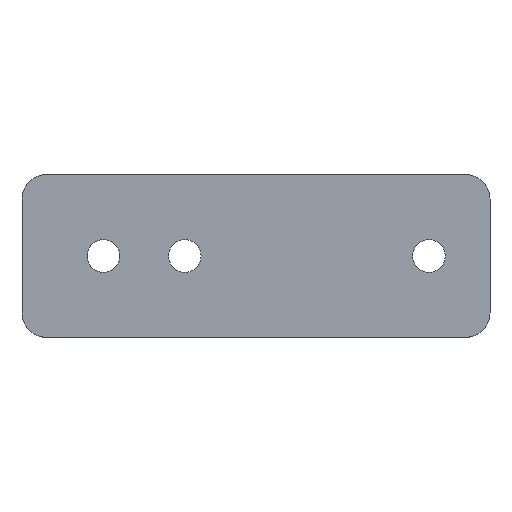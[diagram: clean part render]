
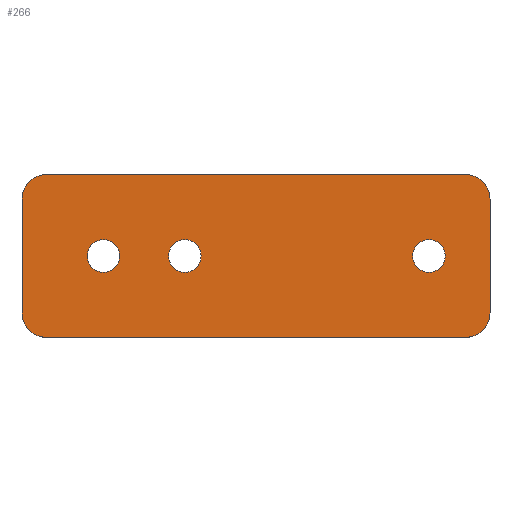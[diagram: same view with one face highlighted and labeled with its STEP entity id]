
A CAD part, top view. The second image highlights one B-rep face of the part: STEP entity #266.
In plain terms, the highlighted planar face has unit normal (0, 0, 1).
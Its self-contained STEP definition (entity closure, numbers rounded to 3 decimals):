
#18=FACE_BOUND('',#56,.T.);
#19=FACE_BOUND('',#57,.T.);
#20=FACE_BOUND('',#58,.T.);
#26=PLANE('',#316);
#39=FACE_OUTER_BOUND('',#55,.T.);
#55=EDGE_LOOP('',(#233,#234,#235,#236,#237,#238,#239,#240));
#56=EDGE_LOOP('',(#241,#242));
#57=EDGE_LOOP('',(#243,#244));
#58=EDGE_LOOP('',(#245,#246));
#63=LINE('',#413,#82);
#69=LINE('',#440,#88);
#76=LINE('',#469,#95);
#77=LINE('',#471,#96);
#82=VECTOR('',#331,10.);
#88=VECTOR('',#357,10.);
#95=VECTOR('',#392,10.);
#96=VECTOR('',#395,10.);
#97=CIRCLE('',#288,6.);
#105=CIRCLE('',#299,6.);
#106=CIRCLE('',#302,6.);
#107=CIRCLE('',#304,6.);
#108=CIRCLE('',#306,4.);
#109=CIRCLE('',#307,4.);
#110=CIRCLE('',#309,4.);
#111=CIRCLE('',#310,4.);
#112=CIRCLE('',#312,4.);
#113=CIRCLE('',#313,4.);
#114=VERTEX_POINT('',#400);
#115=VERTEX_POINT('',#401);
#119=VERTEX_POINT('',#411);
#128=VERTEX_POINT('',#433);
#129=VERTEX_POINT('',#434);
#130=VERTEX_POINT('',#439);
#131=VERTEX_POINT('',#443);
#132=VERTEX_POINT('',#447);
#133=VERTEX_POINT('',#451);
#134=VERTEX_POINT('',#452);
#135=VERTEX_POINT('',#457);
#136=VERTEX_POINT('',#458);
#137=VERTEX_POINT('',#463);
#138=VERTEX_POINT('',#464);
#139=EDGE_CURVE('',#114,#115,#97,.T.);
#145=EDGE_CURVE('',#119,#114,#63,.T.);
#155=EDGE_CURVE('',#128,#129,#105,.T.);
#158=EDGE_CURVE('',#129,#130,#69,.T.);
#160=EDGE_CURVE('',#130,#131,#106,.T.);
#162=EDGE_CURVE('',#132,#119,#107,.T.);
#164=EDGE_CURVE('',#133,#134,#108,.T.);
#165=EDGE_CURVE('',#134,#133,#109,.T.);
#167=EDGE_CURVE('',#135,#136,#110,.T.);
#168=EDGE_CURVE('',#136,#135,#111,.T.);
#170=EDGE_CURVE('',#137,#138,#112,.T.);
#171=EDGE_CURVE('',#138,#137,#113,.T.);
#173=EDGE_CURVE('',#115,#128,#76,.T.);
#174=EDGE_CURVE('',#131,#132,#77,.T.);
#233=ORIENTED_EDGE('',*,*,#139,.F.);
#234=ORIENTED_EDGE('',*,*,#145,.F.);
#235=ORIENTED_EDGE('',*,*,#162,.F.);
#236=ORIENTED_EDGE('',*,*,#174,.F.);
#237=ORIENTED_EDGE('',*,*,#160,.F.);
#238=ORIENTED_EDGE('',*,*,#158,.F.);
#239=ORIENTED_EDGE('',*,*,#155,.F.);
#240=ORIENTED_EDGE('',*,*,#173,.F.);
#241=ORIENTED_EDGE('',*,*,#164,.T.);
#242=ORIENTED_EDGE('',*,*,#165,.T.);
#243=ORIENTED_EDGE('',*,*,#167,.T.);
#244=ORIENTED_EDGE('',*,*,#168,.T.);
#245=ORIENTED_EDGE('',*,*,#170,.T.);
#246=ORIENTED_EDGE('',*,*,#171,.T.);
#266=ADVANCED_FACE('',(#39,#18,#19,#20),#26,.T.);
#288=AXIS2_PLACEMENT_3D('',#402,#321,#322);
#299=AXIS2_PLACEMENT_3D('',#435,#351,#352);
#302=AXIS2_PLACEMENT_3D('',#444,#361,#362);
#304=AXIS2_PLACEMENT_3D('',#448,#366,#367);
#306=AXIS2_PLACEMENT_3D('',#453,#371,#372);
#307=AXIS2_PLACEMENT_3D('',#454,#373,#374);
#309=AXIS2_PLACEMENT_3D('',#459,#378,#379);
#310=AXIS2_PLACEMENT_3D('',#460,#380,#381);
#312=AXIS2_PLACEMENT_3D('',#465,#385,#386);
#313=AXIS2_PLACEMENT_3D('',#466,#387,#388);
#316=AXIS2_PLACEMENT_3D('',#472,#396,#397);
#321=DIRECTION('center_axis',(0.,0.,-1.));
#322=DIRECTION('ref_axis',(0.707,0.707,0.));
#331=DIRECTION('',(1.,0.,0.));
#351=DIRECTION('center_axis',(0.,0.,-1.));
#352=DIRECTION('ref_axis',(0.707,-0.707,0.));
#357=DIRECTION('',(-1.,0.,0.));
#361=DIRECTION('center_axis',(0.,0.,-1.));
#362=DIRECTION('ref_axis',(-0.707,-0.707,0.));
#366=DIRECTION('center_axis',(0.,0.,-1.));
#367=DIRECTION('ref_axis',(-0.707,0.707,0.));
#371=DIRECTION('center_axis',(0.,0.,-1.));
#372=DIRECTION('ref_axis',(1.,0.,0.));
#373=DIRECTION('center_axis',(0.,0.,-1.));
#374=DIRECTION('ref_axis',(1.,0.,0.));
#378=DIRECTION('center_axis',(0.,0.,-1.));
#379=DIRECTION('ref_axis',(1.,0.,0.));
#380=DIRECTION('center_axis',(0.,0.,-1.));
#381=DIRECTION('ref_axis',(1.,0.,0.));
#385=DIRECTION('center_axis',(0.,0.,-1.));
#386=DIRECTION('ref_axis',(1.,0.,0.));
#387=DIRECTION('center_axis',(0.,0.,-1.));
#388=DIRECTION('ref_axis',(1.,0.,0.));
#392=DIRECTION('',(0.,-1.,0.));
#395=DIRECTION('',(0.,1.,0.));
#396=DIRECTION('center_axis',(0.,0.,1.));
#397=DIRECTION('ref_axis',(1.,0.,0.));
#400=CARTESIAN_POINT('',(109.,0.,6.));
#401=CARTESIAN_POINT('',(115.,-6.,6.));
#402=CARTESIAN_POINT('Origin',(109.,-6.,6.));
#411=CARTESIAN_POINT('',(6.,0.,6.));
#413=CARTESIAN_POINT('',(0.,0.,6.));
#433=CARTESIAN_POINT('',(115.,-34.,6.));
#434=CARTESIAN_POINT('',(109.,-40.,6.));
#435=CARTESIAN_POINT('Origin',(109.,-34.,6.));
#439=CARTESIAN_POINT('',(6.,-40.,6.));
#440=CARTESIAN_POINT('',(115.,-40.,6.));
#443=CARTESIAN_POINT('',(0.,-34.,6.));
#444=CARTESIAN_POINT('Origin',(6.,-34.,6.));
#447=CARTESIAN_POINT('',(0.,-6.,6.));
#448=CARTESIAN_POINT('Origin',(6.,-6.,6.));
#451=CARTESIAN_POINT('',(104.,-20.,6.));
#452=CARTESIAN_POINT('',(96.,-20.,6.));
#453=CARTESIAN_POINT('Origin',(100.,-20.,6.));
#454=CARTESIAN_POINT('Origin',(100.,-20.,6.));
#457=CARTESIAN_POINT('',(44.,-20.,6.));
#458=CARTESIAN_POINT('',(36.,-20.,6.));
#459=CARTESIAN_POINT('Origin',(40.,-20.,6.));
#460=CARTESIAN_POINT('Origin',(40.,-20.,6.));
#463=CARTESIAN_POINT('',(24.,-20.,6.));
#464=CARTESIAN_POINT('',(16.,-20.,6.));
#465=CARTESIAN_POINT('Origin',(20.,-20.,6.));
#466=CARTESIAN_POINT('Origin',(20.,-20.,6.));
#469=CARTESIAN_POINT('',(115.,0.,6.));
#471=CARTESIAN_POINT('',(0.,-40.,6.));
#472=CARTESIAN_POINT('Origin',(57.5,-20.,6.));
